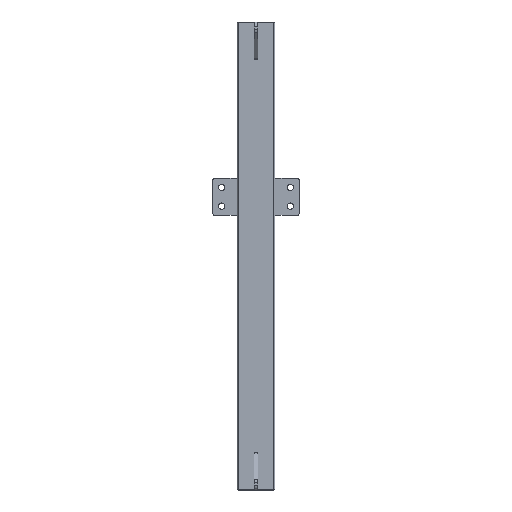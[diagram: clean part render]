
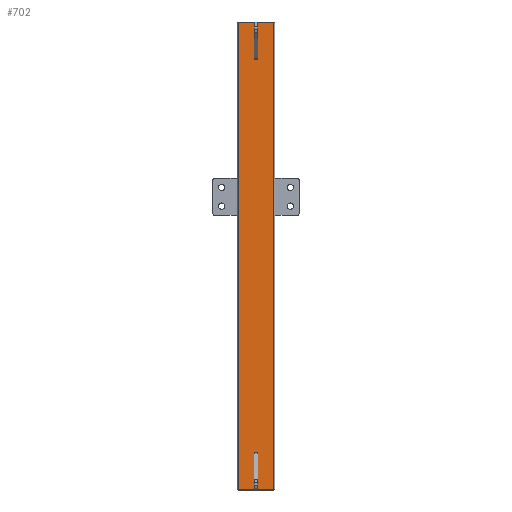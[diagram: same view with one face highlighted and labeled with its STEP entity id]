
A CAD part, top view. The second image highlights one B-rep face of the part: STEP entity #702.
In plain terms, the highlighted planar face has unit normal (0, 0, 1).
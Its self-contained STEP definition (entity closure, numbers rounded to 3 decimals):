
#46=PLANE('',#784);
#76=LINE('',#1098,#140);
#77=LINE('',#1102,#141);
#78=LINE('',#1104,#142);
#79=LINE('',#1106,#143);
#140=VECTOR('',#880,1000.);
#141=VECTOR('',#885,1000.);
#142=VECTOR('',#886,1000.);
#143=VECTOR('',#887,1000.);
#215=ORIENTED_EDGE('',*,*,#403,.T.);
#216=ORIENTED_EDGE('',*,*,#404,.F.);
#217=ORIENTED_EDGE('',*,*,#405,.F.);
#218=ORIENTED_EDGE('',*,*,#401,.T.);
#401=EDGE_CURVE('',#494,#493,#76,.T.);
#403=EDGE_CURVE('',#493,#495,#77,.T.);
#404=EDGE_CURVE('',#496,#495,#78,.T.);
#405=EDGE_CURVE('',#494,#496,#79,.T.);
#493=VERTEX_POINT('',#1097);
#494=VERTEX_POINT('',#1099);
#495=VERTEX_POINT('',#1103);
#496=VERTEX_POINT('',#1105);
#586=EDGE_LOOP('',(#215,#216,#217,#218));
#636=FACE_BOUND('',#586,.T.);
#702=ADVANCED_FACE('',(#636),#46,.F.);
#784=AXIS2_PLACEMENT_3D('',#1101,#883,#884);
#880=DIRECTION('',(0.,-1.,0.));
#883=DIRECTION('',(0.,0.,-1.));
#884=DIRECTION('',(-1.,0.,0.));
#885=DIRECTION('',(1.,0.,0.));
#886=DIRECTION('',(0.,-1.,0.));
#887=DIRECTION('',(1.,0.,0.));
#1097=CARTESIAN_POINT('',(-57.,0.,30.));
#1098=CARTESIAN_POINT('',(-57.,1500.,30.));
#1099=CARTESIAN_POINT('',(-57.,1500.,30.));
#1101=CARTESIAN_POINT('',(-60.,1500.,30.));
#1102=CARTESIAN_POINT('',(-60.,0.,30.));
#1103=CARTESIAN_POINT('',(57.,0.,30.));
#1104=CARTESIAN_POINT('',(57.,1500.,30.));
#1105=CARTESIAN_POINT('',(57.,1500.,30.));
#1106=CARTESIAN_POINT('',(-60.,1500.,30.));
